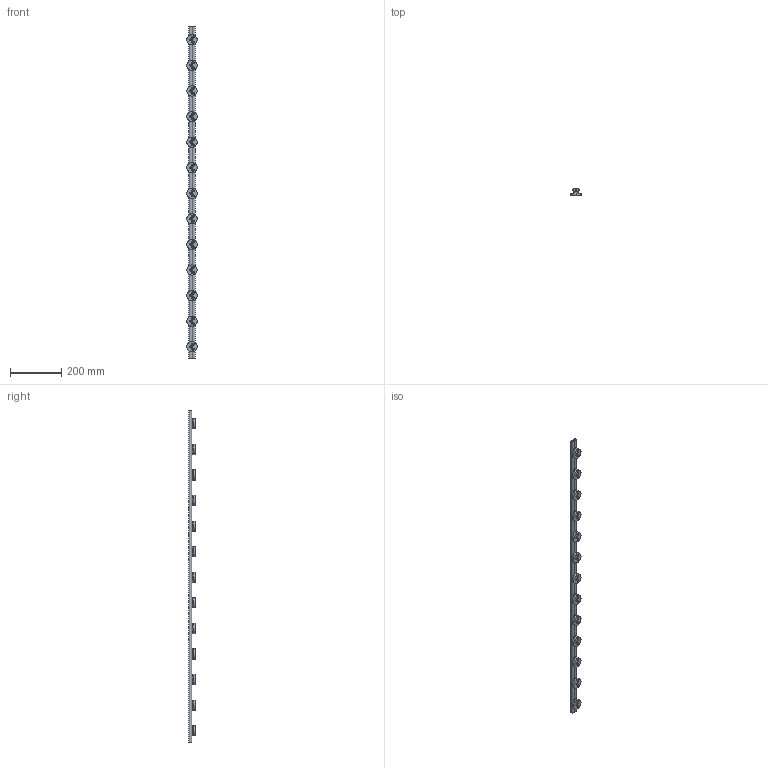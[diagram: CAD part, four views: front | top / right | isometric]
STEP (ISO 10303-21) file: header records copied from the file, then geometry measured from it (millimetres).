
FILE_DESCRIPTION (( 'STEP AP214' ), '1' );
FILE_NAME ('LF 1_-_LF 1 1298 mm lang.step', '2005-06-03T05:54:28', ( ' ' ), ( ' ' ), 'SwSTEP 2.0', 'SolidWorks 2004231', '' );
FILE_SCHEMA (( 'AUTOMOTIVE_DESIGN' ));
Length unit declared in the file: millimetre
Products named in the file (1): LF 1_-_LF 1  1298 mm lang
Bounding box: 40 x 27 x 1298 mm (x, y, z)
Volume: 471151.1 mm3; surface area: 164343.1 mm2
Topology: 1 solids, 1 shells, 1450 faces, 3590 edges, 2168 vertices
Faces by surface type: plane 680, cylinder 562, cone 130, torus 78
Entity records: 44296 total; most frequent: CARTESIAN_POINT 12210, ORIENTED_EDGE 6920, DIRECTION 6225, EDGE_CURVE 3460, AXIS2_PLACEMENT_3D 2211, VERTEX_POINT 2168, VECTOR 1803, LINE 1803
